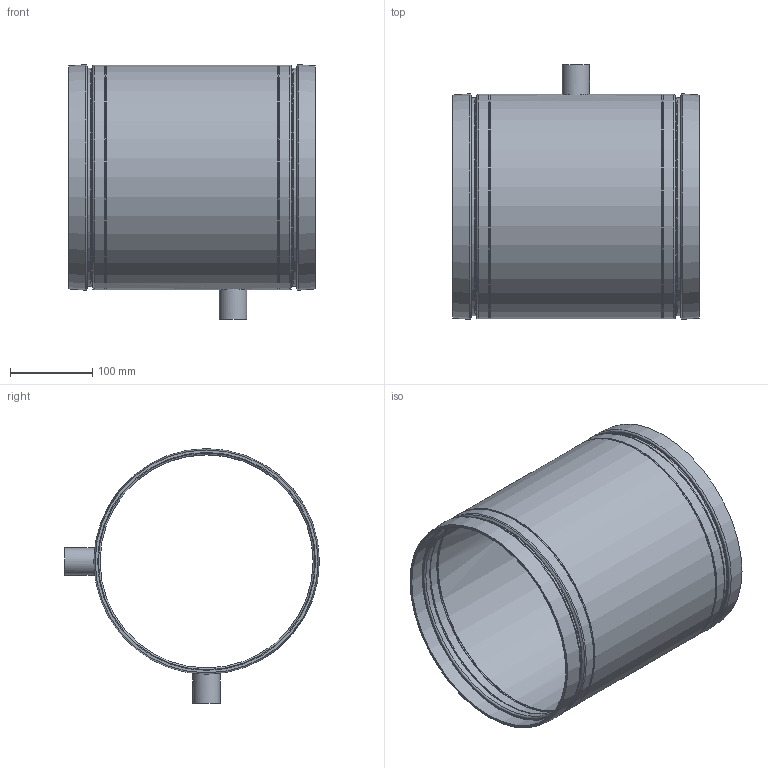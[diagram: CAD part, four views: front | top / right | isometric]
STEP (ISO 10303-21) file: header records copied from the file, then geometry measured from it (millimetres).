
FILE_DESCRIPTION(/* description */ ('VIC STRENGTHIN NIPPLE No E494I','CAx-IF Rec.Pracs.---Representation and Presentation of Product Manufacturing Information (PMI)---4.0---2014-10-13'),/* implementation_level */ '2;1');
FILE_NAME(/* name */ 'C:\ST100\STEP\Victaulic_SS-StrengThin 100_Nipple Instrumentation_No E494I (ST1)\Victaulic_SS-StrengThin 100_Nipple Instrumentation_No E494I (ST1)_10 (250).stp',/* time_stamp */ '2021-06-17T18:16:39+06:00',/* author */ ('kkamble'),/* organization */ ('Victaulic'),/* preprocessor_version */ 'ST-DEVELOPER v17.2',/* originating_system */ 'Autodesk Inventor 2019',/* authorisation */ '');
FILE_SCHEMA (('AP242_MANAGED_MODEL_BASED_3D_ENGINEERING_MIM_LF { 1 0 10303 442 1 1 4 }'));
Length unit declared in the file: inch
Products named in the file (1): E494I-10.0
Bounding box: 299.72 x 309.7 x 309.7 mm (x, y, z)
Volume: 834178.4 mm3; surface area: 542405.8 mm2
Topology: 1 solids, 1 shells, 60 faces, 196 edges, 146 vertices
Faces by surface type: torus 26, cylinder 16, plane 10, cone 8
Full cylindrical faces by diameter (mm): 21.336 x2, 26.67 x2, 33.401 x2, 259.08 x2, 265.176 x2, 266.954 x3, 273.05 x3
Entity records: 2720 total; most frequent: CARTESIAN_POINT 620, DIRECTION 500, ORIENTED_EDGE 392, AXIS2_PLACEMENT_3D 238, EDGE_CURVE 196, CIRCLE 164, VERTEX_POINT 146, EDGE_LOOP 74
